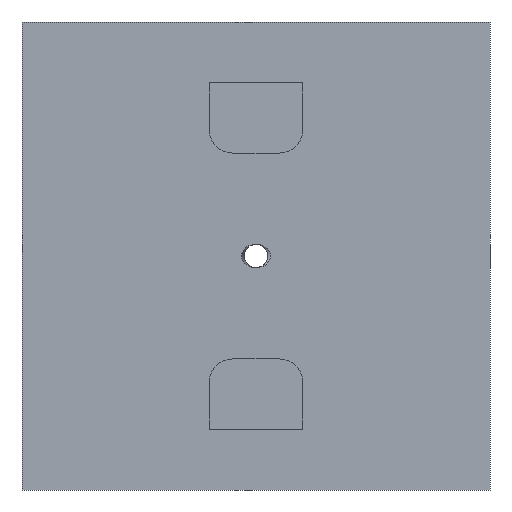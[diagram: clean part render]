
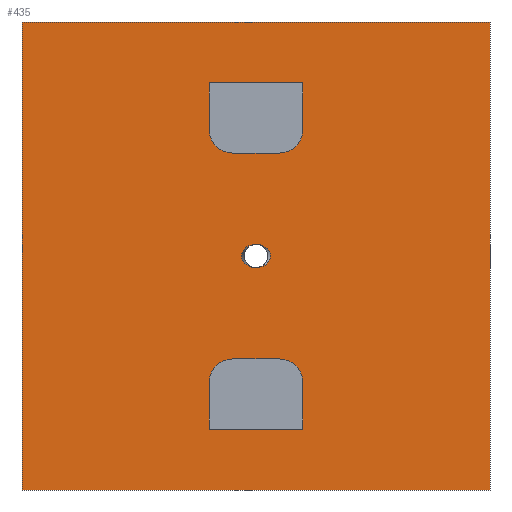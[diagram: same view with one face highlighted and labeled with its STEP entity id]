
A CAD part, front view. The second image highlights one B-rep face of the part: STEP entity #435.
In plain terms, the highlighted planar face has unit normal (0, -1, 0).
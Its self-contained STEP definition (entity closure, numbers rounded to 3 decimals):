
#15=FACE_BOUND('',#86,.T.);
#16=FACE_BOUND('',#87,.T.);
#17=FACE_BOUND('',#88,.T.);
#21=ELLIPSE('',#478,0.309,0.25);
#28=ELLIPSE('',#488,0.309,0.25);
#39=PLANE('',#489);
#62=FACE_OUTER_BOUND('',#85,.T.);
#85=EDGE_LOOP('',(#370,#371,#372,#373));
#86=EDGE_LOOP('',(#374,#375,#376,#377,#378,#379));
#87=EDGE_LOOP('',(#380,#381,#382,#383,#384,#385));
#88=EDGE_LOOP('',(#386,#387));
#101=LINE('',#635,#144);
#107=LINE('',#655,#150);
#113=LINE('',#670,#156);
#116=LINE('',#679,#159);
#120=LINE('',#686,#163);
#121=LINE('',#688,#164);
#123=LINE('',#692,#166);
#124=LINE('',#694,#167);
#128=LINE('',#720,#171);
#129=LINE('',#722,#172);
#130=LINE('',#724,#173);
#131=LINE('',#725,#174);
#144=VECTOR('',#509,10.);
#150=VECTOR('',#527,10.);
#156=VECTOR('',#541,10.);
#159=VECTOR('',#550,10.);
#163=VECTOR('',#556,10.);
#164=VECTOR('',#559,10.);
#166=VECTOR('',#565,10.);
#167=VECTOR('',#568,10.);
#171=VECTOR('',#598,10.);
#172=VECTOR('',#599,10.);
#173=VECTOR('',#600,10.);
#174=VECTOR('',#601,10.);
#184=CIRCLE('',#457,0.5);
#187=CIRCLE('',#463,0.5);
#189=CIRCLE('',#467,0.5);
#190=CIRCLE('',#470,0.5);
#194=VERTEX_POINT('',#625);
#195=VERTEX_POINT('',#627);
#197=VERTEX_POINT('',#633);
#203=VERTEX_POINT('',#648);
#204=VERTEX_POINT('',#650);
#205=VERTEX_POINT('',#654);
#209=VERTEX_POINT('',#663);
#210=VERTEX_POINT('',#665);
#211=VERTEX_POINT('',#672);
#212=VERTEX_POINT('',#674);
#213=VERTEX_POINT('',#678);
#215=VERTEX_POINT('',#684);
#216=VERTEX_POINT('',#696);
#217=VERTEX_POINT('',#697);
#223=VERTEX_POINT('',#718);
#224=VERTEX_POINT('',#719);
#225=VERTEX_POINT('',#721);
#226=VERTEX_POINT('',#723);
#233=EDGE_CURVE('',#194,#195,#184,.F.);
#237=EDGE_CURVE('',#194,#197,#101,.T.);
#244=EDGE_CURVE('',#203,#204,#187,.F.);
#246=EDGE_CURVE('',#205,#204,#107,.T.);
#251=EDGE_CURVE('',#209,#210,#189,.F.);
#254=EDGE_CURVE('',#203,#210,#113,.T.);
#256=EDGE_CURVE('',#211,#212,#190,.F.);
#258=EDGE_CURVE('',#213,#212,#116,.T.);
#262=EDGE_CURVE('',#209,#215,#120,.T.);
#263=EDGE_CURVE('',#215,#205,#121,.T.);
#265=EDGE_CURVE('',#211,#195,#123,.T.);
#266=EDGE_CURVE('',#197,#213,#124,.T.);
#267=EDGE_CURVE('',#216,#217,#21,.T.);
#278=EDGE_CURVE('',#217,#216,#28,.T.);
#279=EDGE_CURVE('',#223,#224,#128,.T.);
#280=EDGE_CURVE('',#224,#225,#129,.T.);
#281=EDGE_CURVE('',#226,#225,#130,.T.);
#282=EDGE_CURVE('',#223,#226,#131,.T.);
#370=ORIENTED_EDGE('',*,*,#279,.T.);
#371=ORIENTED_EDGE('',*,*,#280,.T.);
#372=ORIENTED_EDGE('',*,*,#281,.F.);
#373=ORIENTED_EDGE('',*,*,#282,.F.);
#374=ORIENTED_EDGE('',*,*,#262,.T.);
#375=ORIENTED_EDGE('',*,*,#263,.T.);
#376=ORIENTED_EDGE('',*,*,#246,.T.);
#377=ORIENTED_EDGE('',*,*,#244,.F.);
#378=ORIENTED_EDGE('',*,*,#254,.T.);
#379=ORIENTED_EDGE('',*,*,#251,.F.);
#380=ORIENTED_EDGE('',*,*,#258,.T.);
#381=ORIENTED_EDGE('',*,*,#256,.F.);
#382=ORIENTED_EDGE('',*,*,#265,.T.);
#383=ORIENTED_EDGE('',*,*,#233,.F.);
#384=ORIENTED_EDGE('',*,*,#237,.T.);
#385=ORIENTED_EDGE('',*,*,#266,.T.);
#386=ORIENTED_EDGE('',*,*,#267,.T.);
#387=ORIENTED_EDGE('',*,*,#278,.T.);
#435=ADVANCED_FACE('',(#62,#15,#16,#17),#39,.T.);
#457=AXIS2_PLACEMENT_3D('',#628,#502,#503);
#463=AXIS2_PLACEMENT_3D('',#651,#522,#523);
#467=AXIS2_PLACEMENT_3D('',#666,#535,#536);
#470=AXIS2_PLACEMENT_3D('',#675,#545,#546);
#478=AXIS2_PLACEMENT_3D('',#698,#571,#572);
#488=AXIS2_PLACEMENT_3D('',#716,#594,#595);
#489=AXIS2_PLACEMENT_3D('',#717,#596,#597);
#502=DIRECTION('center_axis',(0.,1.,0.));
#503=DIRECTION('ref_axis',(-0.707,0.,-0.707));
#509=DIRECTION('',(0.,0.,1.));
#522=DIRECTION('center_axis',(0.,1.,0.));
#523=DIRECTION('ref_axis',(-0.707,0.,0.707));
#527=DIRECTION('',(0.,0.,1.));
#535=DIRECTION('center_axis',(0.,1.,0.));
#536=DIRECTION('ref_axis',(0.707,0.,0.707));
#541=DIRECTION('',(1.,0.,0.));
#545=DIRECTION('center_axis',(0.,1.,0.));
#546=DIRECTION('ref_axis',(0.707,0.,-0.707));
#550=DIRECTION('',(0.,0.,-1.));
#556=DIRECTION('',(0.,0.,-1.));
#559=DIRECTION('',(-1.,0.,0.));
#565=DIRECTION('',(-1.,0.,0.));
#568=DIRECTION('',(1.,0.,0.));
#571=DIRECTION('center_axis',(0.,1.,0.));
#572=DIRECTION('ref_axis',(-1.,0.,0.));
#594=DIRECTION('center_axis',(0.,1.,0.));
#595=DIRECTION('ref_axis',(1.,0.,0.));
#596=DIRECTION('center_axis',(0.,-1.,0.));
#597=DIRECTION('ref_axis',(1.,0.,0.));
#598=DIRECTION('',(1.,0.,0.));
#599=DIRECTION('',(0.,0.,1.));
#600=DIRECTION('',(1.,0.,0.));
#601=DIRECTION('',(0.,0.,1.));
#625=CARTESIAN_POINT('',(-1.,-5.25,7.7));
#627=CARTESIAN_POINT('',(-0.5,-5.25,7.2));
#628=CARTESIAN_POINT('Origin',(-0.5,-5.25,7.7));
#633=CARTESIAN_POINT('',(-1.,-5.25,8.7));
#635=CARTESIAN_POINT('',(-1.,-5.25,4.35));
#648=CARTESIAN_POINT('',(-0.5,-5.25,2.8));
#650=CARTESIAN_POINT('',(-1.,-5.25,2.3));
#651=CARTESIAN_POINT('Origin',(-0.5,-5.25,2.3));
#654=CARTESIAN_POINT('',(-1.,-5.25,1.3));
#655=CARTESIAN_POINT('',(-1.,-5.25,1.4));
#663=CARTESIAN_POINT('',(1.,-5.25,2.3));
#665=CARTESIAN_POINT('',(0.5,-5.25,2.8));
#666=CARTESIAN_POINT('Origin',(0.5,-5.25,2.3));
#670=CARTESIAN_POINT('',(-2.,-5.25,2.8));
#672=CARTESIAN_POINT('',(0.5,-5.25,7.2));
#674=CARTESIAN_POINT('',(1.,-5.25,7.7));
#675=CARTESIAN_POINT('Origin',(0.5,-5.25,7.7));
#678=CARTESIAN_POINT('',(1.,-5.25,8.7));
#679=CARTESIAN_POINT('',(1.,-5.25,3.6));
#684=CARTESIAN_POINT('',(1.,-5.25,1.3));
#686=CARTESIAN_POINT('',(1.,-5.25,0.65));
#688=CARTESIAN_POINT('',(-3.,-5.25,1.3));
#692=CARTESIAN_POINT('',(-3.,-5.25,7.2));
#694=CARTESIAN_POINT('',(-2.,-5.25,8.7));
#696=CARTESIAN_POINT('',(0.,-5.25,4.75));
#697=CARTESIAN_POINT('',(0.,-5.25,5.25));
#698=CARTESIAN_POINT('Origin',(0.,-5.25,5.));
#716=CARTESIAN_POINT('Origin',(0.,-5.25,5.));
#717=CARTESIAN_POINT('Origin',(-5.,-5.25,0.));
#718=CARTESIAN_POINT('',(-5.,-5.25,0.));
#719=CARTESIAN_POINT('',(5.,-5.25,0.));
#720=CARTESIAN_POINT('',(-5.,-5.25,0.));
#721=CARTESIAN_POINT('',(5.,-5.25,10.));
#722=CARTESIAN_POINT('',(5.,-5.25,0.));
#723=CARTESIAN_POINT('',(-5.,-5.25,10.));
#724=CARTESIAN_POINT('',(-5.,-5.25,10.));
#725=CARTESIAN_POINT('',(-5.,-5.25,0.));
